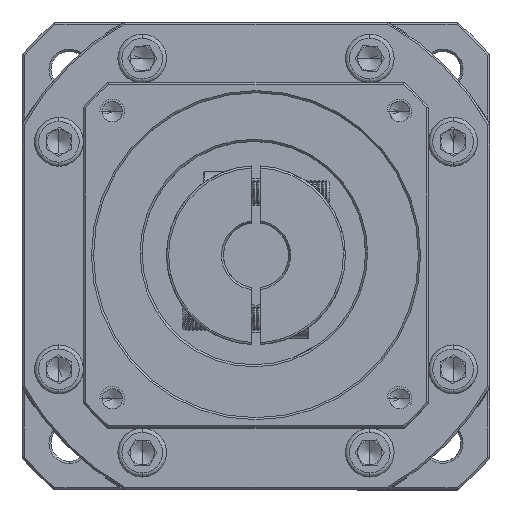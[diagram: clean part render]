
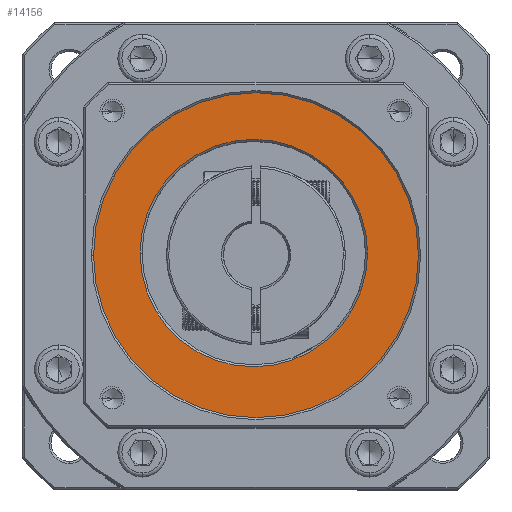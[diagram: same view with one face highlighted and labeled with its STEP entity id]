
A CAD part, top view. The second image highlights one B-rep face of the part: STEP entity #14156.
In plain terms, the highlighted planar face has unit normal (0, 0, 1).
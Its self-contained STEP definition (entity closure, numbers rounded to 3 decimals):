
#4289 = AXIS2_PLACEMENT_3D ( 'NONE', #4935, #70308, #14280 ) ;
#4360 = CARTESIAN_POINT ( 'NONE',  ( 57.945, -51.453, -19.608 ) ) ;
#4935 = CARTESIAN_POINT ( 'NONE',  ( 57.945, -51.453, -19.608 ) ) ;
#5592 = CIRCLE ( 'NONE', #55754, 28. ) ;
#5970 = DIRECTION ( 'NONE',  ( 0., 0., -1. ) ) ;
#13736 = DIRECTION ( 'NONE',  ( 1., 0., 0. ) ) ;
#14156 = ADVANCED_FACE ( 'NONE', ( #41563, #44447 ), #80820, .T. ) ;
#14280 = DIRECTION ( 'NONE',  ( 1., 0., 0. ) ) ;
#21058 = VERTEX_POINT ( 'NONE', #116160 ) ;
#21294 = ORIENTED_EDGE ( 'NONE', *, *, #68032, .T. ) ;
#25977 = EDGE_LOOP ( 'NONE', ( #21294, #82401 ) ) ;
#32756 = CIRCLE ( 'NONE', #58665, 40. ) ;
#34242 = AXIS2_PLACEMENT_3D ( 'NONE', #61956, #5970, #71380 ) ;
#39026 = DIRECTION ( 'NONE',  ( 0., 0., -1. ) ) ;
#41202 = CARTESIAN_POINT ( 'NONE',  ( 97.945, -51.453, -19.608 ) ) ;
#41475 = VERTEX_POINT ( 'NONE', #41202 ) ;
#41563 = FACE_OUTER_BOUND ( 'NONE', #113608, .T. ) ;
#42544 = CARTESIAN_POINT ( 'NONE',  ( 85.404, -50.919, -19.608 ) ) ;
#43682 = AXIS2_PLACEMENT_3D ( 'NONE', #53720, #119332, #63131 ) ;
#44447 = FACE_BOUND ( 'NONE', #25977, .T. ) ;
#53720 = CARTESIAN_POINT ( 'NONE',  ( 57.945, -51.453, -19.608 ) ) ;
#54021 = EDGE_CURVE ( 'NONE', #61748, #71642, #76962, .T. ) ;
#55754 = AXIS2_PLACEMENT_3D ( 'NONE', #95140, #39026, #104519 ) ;
#56347 = CARTESIAN_POINT ( 'NONE',  ( 29.404, -50.919, -19.608 ) ) ;
#58665 = AXIS2_PLACEMENT_3D ( 'NONE', #4360, #69754, #13736 ) ;
#61748 = VERTEX_POINT ( 'NONE', #56347 ) ;
#61956 = CARTESIAN_POINT ( 'NONE',  ( 57.404, -50.919, -19.608 ) ) ;
#63131 = DIRECTION ( 'NONE',  ( 1., 0., 0. ) ) ;
#68032 = EDGE_CURVE ( 'NONE', #71642, #61748, #5592, .T. ) ;
#69754 = DIRECTION ( 'NONE',  ( 0., 0., 1. ) ) ;
#70308 = DIRECTION ( 'NONE',  ( 0., 0., 1. ) ) ;
#71380 = DIRECTION ( 'NONE',  ( 1., 0., 0. ) ) ;
#71642 = VERTEX_POINT ( 'NONE', #42544 ) ;
#76962 = CIRCLE ( 'NONE', #34242, 28. ) ;
#80499 = ORIENTED_EDGE ( 'NONE', *, *, #106232, .T. ) ;
#80820 = PLANE ( 'NONE',  #43682 ) ;
#82401 = ORIENTED_EDGE ( 'NONE', *, *, #54021, .T. ) ;
#95140 = CARTESIAN_POINT ( 'NONE',  ( 57.404, -50.919, -19.608 ) ) ;
#104519 = DIRECTION ( 'NONE',  ( 1., 0., 0. ) ) ;
#106232 = EDGE_CURVE ( 'NONE', #41475, #21058, #117510, .T. ) ;
#111315 = ORIENTED_EDGE ( 'NONE', *, *, #114965, .T. ) ;
#113608 = EDGE_LOOP ( 'NONE', ( #80499, #111315 ) ) ;
#114965 = EDGE_CURVE ( 'NONE', #21058, #41475, #32756, .T. ) ;
#116160 = CARTESIAN_POINT ( 'NONE',  ( 17.945, -51.453, -19.608 ) ) ;
#117510 = CIRCLE ( 'NONE', #4289, 40. ) ;
#119332 = DIRECTION ( 'NONE',  ( 0., 0., 1. ) ) ;
